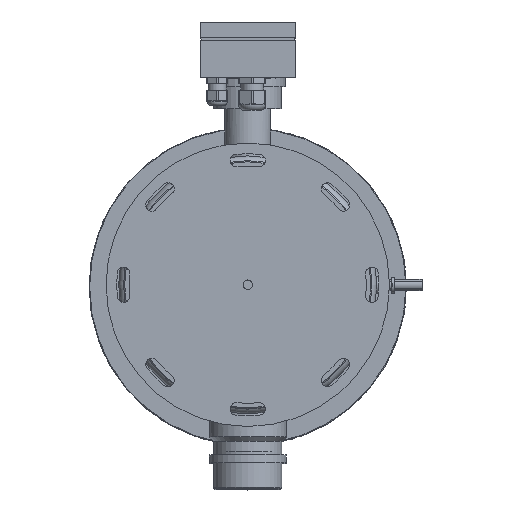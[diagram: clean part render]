
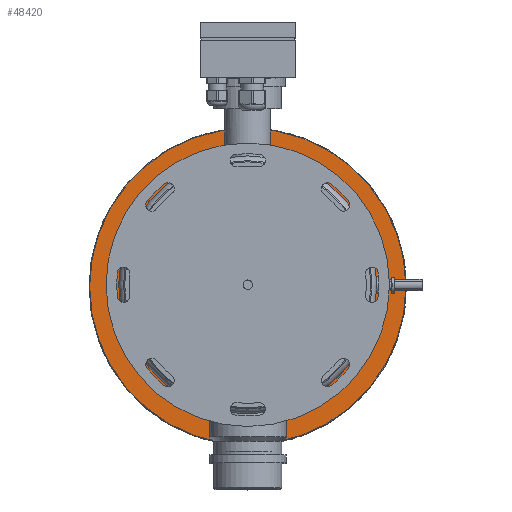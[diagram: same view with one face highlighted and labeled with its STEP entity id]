
A CAD part, top view. The second image highlights one B-rep face of the part: STEP entity #48420.
In plain terms, the highlighted planar face has unit normal (0, 0, 1).
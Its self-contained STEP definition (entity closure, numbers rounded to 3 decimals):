
#1697=FACE_BOUND('',#8442,.T.);
#2413=PLANE('',#51370);
#5548=FACE_OUTER_BOUND('',#8441,.T.);
#8441=EDGE_LOOP('',(#39790,#39791));
#8442=EDGE_LOOP('',(#39792,#39793));
#9967=CIRCLE('',#50005,109.55);
#9970=CIRCLE('',#50008,109.55);
#10608=CIRCLE('',#51365,139.5);
#10609=CIRCLE('',#51366,139.5);
#20096=VERTEX_POINT('',#65613);
#20097=VERTEX_POINT('',#65614);
#22468=VERTEX_POINT('',#90623);
#22469=VERTEX_POINT('',#90625);
#25059=EDGE_CURVE('',#20096,#20097,#9967,.T.);
#25072=EDGE_CURVE('',#20097,#20096,#9970,.T.);
#28619=EDGE_CURVE('',#22468,#22469,#10608,.T.);
#28620=EDGE_CURVE('',#22469,#22468,#10609,.T.);
#39790=ORIENTED_EDGE('',*,*,#28620,.F.);
#39791=ORIENTED_EDGE('',*,*,#28619,.F.);
#39792=ORIENTED_EDGE('',*,*,#25059,.F.);
#39793=ORIENTED_EDGE('',*,*,#25072,.F.);
#48420=ADVANCED_FACE('',(#5548,#1697),#2413,.T.);
#50005=AXIS2_PLACEMENT_3D('',#65615,#53813,#53814);
#50008=AXIS2_PLACEMENT_3D('',#65672,#53826,#53827);
#51365=AXIS2_PLACEMENT_3D('',#90626,#58094,#58095);
#51366=AXIS2_PLACEMENT_3D('',#90627,#58096,#58097);
#51370=AXIS2_PLACEMENT_3D('',#90634,#58105,#58106);
#53813=DIRECTION('center_axis',(0.,0.,1.));
#53814=DIRECTION('ref_axis',(-1.,0.,0.));
#53826=DIRECTION('center_axis',(0.,0.,1.));
#53827=DIRECTION('ref_axis',(-1.,0.,0.));
#58094=DIRECTION('center_axis',(0.,0.,
-1.));
#58095=DIRECTION('ref_axis',(0.,1.,0.));
#58096=DIRECTION('center_axis',(0.,0.,
-1.));
#58097=DIRECTION('ref_axis',(0.,1.,0.));
#58105=DIRECTION('center_axis',(0.,0.,
1.));
#58106=DIRECTION('ref_axis',(1.,0.,0.));
#65613=CARTESIAN_POINT('',(0.,109.55,-858.));
#65614=CARTESIAN_POINT('',(109.55,0.,-858.));
#65615=CARTESIAN_POINT('Origin',(0.,0.,-858.));
#65672=CARTESIAN_POINT('Origin',(0.,0.,-858.));
#90623=CARTESIAN_POINT('',(0.,-139.5,-858.));
#90625=CARTESIAN_POINT('',(0.,139.5,-858.));
#90626=CARTESIAN_POINT('Origin',(0.,0.,
-858.));
#90627=CARTESIAN_POINT('Origin',(0.,0.,
-858.));
#90634=CARTESIAN_POINT('Origin',(0.,-140.,-858.));
